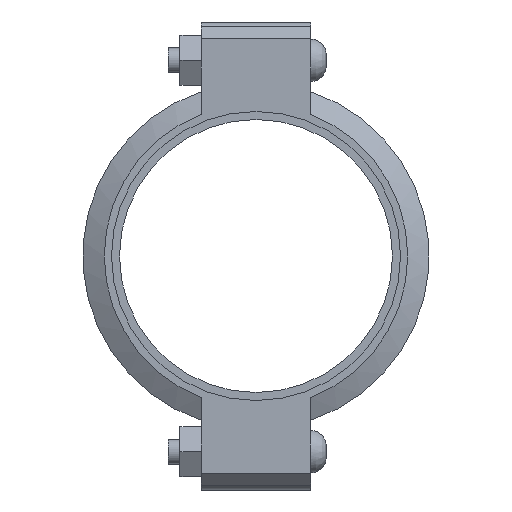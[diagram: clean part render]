
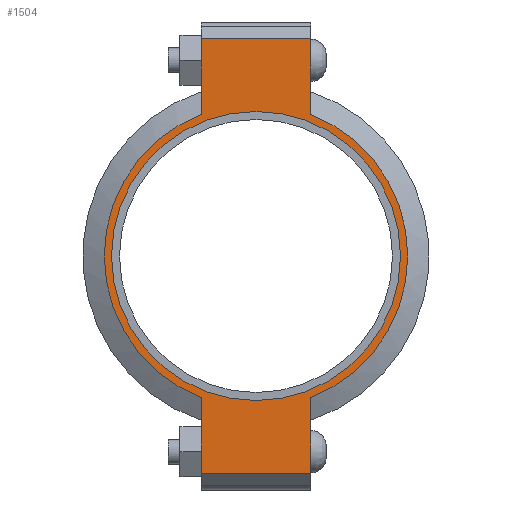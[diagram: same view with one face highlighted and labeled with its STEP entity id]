
A CAD part, left-side view. The second image highlights one B-rep face of the part: STEP entity #1504.
In plain terms, the highlighted planar face has unit normal (-1, 0, 0) as drawn and (0, 0, 1) by its records, which use the part's own axes.
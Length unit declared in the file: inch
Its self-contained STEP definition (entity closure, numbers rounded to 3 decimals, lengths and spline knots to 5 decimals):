
#184=LINE('',#2591,#275);
#192=LINE('',#2627,#283);
#199=LINE('',#2648,#290);
#208=LINE('',#2680,#299);
#209=LINE('',#2684,#300);
#210=LINE('',#2686,#301);
#275=VECTOR('',#2089,0.3937);
#283=VECTOR('',#2105,0.3937);
#290=VECTOR('',#2124,0.3937);
#299=VECTOR('',#2149,0.3937);
#300=VECTOR('',#2154,0.3937);
#301=VECTOR('',#2155,0.3937);
#353=FACE_BOUND('',#513,.T.);
#417=FACE_OUTER_BOUND('',#512,.T.);
#512=EDGE_LOOP('',(#1239,#1240,#1241,#1242,#1243,#1244,#1245,#1246));
#513=EDGE_LOOP('',(#1247));
#610=CIRCLE('',#1747,4.53);
#611=CIRCLE('',#1748,4.53);
#612=CIRCLE('',#1749,4.3125);
#715=VERTEX_POINT('',#2588);
#716=VERTEX_POINT('',#2590);
#727=VERTEX_POINT('',#2622);
#728=VERTEX_POINT('',#2626);
#735=VERTEX_POINT('',#2645);
#736=VERTEX_POINT('',#2647);
#746=VERTEX_POINT('',#2683);
#747=VERTEX_POINT('',#2685);
#748=VERTEX_POINT('',#2688);
#879=EDGE_CURVE('',#716,#715,#184,.T.);
#893=EDGE_CURVE('',#728,#727,#192,.T.);
#903=EDGE_CURVE('',#736,#735,#199,.T.);
#918=EDGE_CURVE('',#728,#715,#208,.T.);
#919=EDGE_CURVE('',#727,#736,#610,.T.);
#920=EDGE_CURVE('',#746,#735,#209,.T.);
#921=EDGE_CURVE('',#746,#747,#210,.T.);
#922=EDGE_CURVE('',#747,#716,#611,.T.);
#923=EDGE_CURVE('',#748,#748,#612,.T.);
#1239=ORIENTED_EDGE('',*,*,#918,.F.);
#1240=ORIENTED_EDGE('',*,*,#893,.T.);
#1241=ORIENTED_EDGE('',*,*,#919,.T.);
#1242=ORIENTED_EDGE('',*,*,#903,.T.);
#1243=ORIENTED_EDGE('',*,*,#920,.F.);
#1244=ORIENTED_EDGE('',*,*,#921,.T.);
#1245=ORIENTED_EDGE('',*,*,#922,.T.);
#1246=ORIENTED_EDGE('',*,*,#879,.T.);
#1247=ORIENTED_EDGE('',*,*,#923,.T.);
#1358=PLANE('',#1746);
#1504=ADVANCED_FACE('',(#417,#353),#1358,.T.);
#1746=AXIS2_PLACEMENT_3D('',#2681,#2150,#2151);
#1747=AXIS2_PLACEMENT_3D('',#2682,#2152,#2153);
#1748=AXIS2_PLACEMENT_3D('',#2687,#2156,#2157);
#1749=AXIS2_PLACEMENT_3D('',#2689,#2158,#2159);
#2089=DIRECTION('',(-1.,0.,0.));
#2105=DIRECTION('',(1.,0.,0.));
#2124=DIRECTION('',(1.,0.,0.));
#2149=DIRECTION('',(0.,1.,0.));
#2150=DIRECTION('center_axis',(0.,0.,1.));
#2151=DIRECTION('ref_axis',(1.,0.,0.));
#2152=DIRECTION('center_axis',(0.,0.,1.));
#2153=DIRECTION('ref_axis',(-1.,0.,0.));
#2154=DIRECTION('',(0.,-1.,0.));
#2155=DIRECTION('',(-1.,0.,0.));
#2156=DIRECTION('center_axis',(0.,0.,1.));
#2157=DIRECTION('ref_axis',(-1.,0.,0.));
#2158=DIRECTION('center_axis',(0.,0.,-1.));
#2159=DIRECTION('ref_axis',(-1.,0.,0.));
#2588=CARTESIAN_POINT('',(-6.485,1.63,1.16));
#2590=CARTESIAN_POINT('',(-4.22658,1.63,1.16));
#2591=CARTESIAN_POINT('',(-6.985,1.63,1.16));
#2622=CARTESIAN_POINT('',(-4.22658,-1.63,1.16));
#2626=CARTESIAN_POINT('',(-6.485,-1.63,1.16));
#2627=CARTESIAN_POINT('',(6.985,-1.63,1.16));
#2645=CARTESIAN_POINT('',(6.485,-1.63,1.16));
#2647=CARTESIAN_POINT('',(4.22658,-1.63,1.16));
#2648=CARTESIAN_POINT('',(6.985,-1.63,1.16));
#2680=CARTESIAN_POINT('',(-6.485,0.815,1.16));
#2681=CARTESIAN_POINT('Origin',(0.,0.,
1.16));
#2682=CARTESIAN_POINT('Origin',(0.,0.,1.16));
#2683=CARTESIAN_POINT('',(6.485,1.63,1.16));
#2684=CARTESIAN_POINT('',(6.485,-0.815,1.16));
#2685=CARTESIAN_POINT('',(4.22658,1.63,1.16));
#2686=CARTESIAN_POINT('',(-6.985,1.63,1.16));
#2687=CARTESIAN_POINT('Origin',(0.,0.,1.16));
#2688=CARTESIAN_POINT('',(4.3125,0.,1.16));
#2689=CARTESIAN_POINT('Origin',(0.,0.,1.16));
